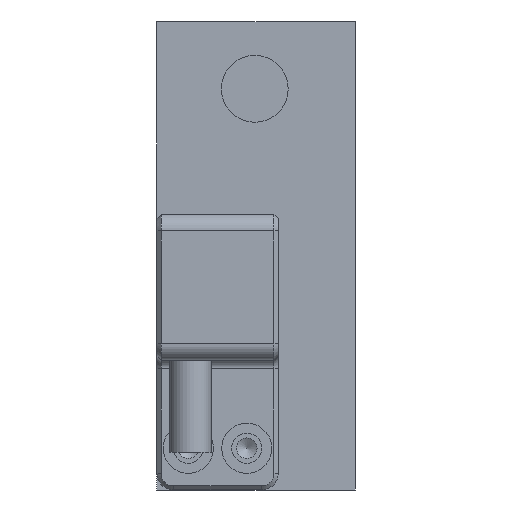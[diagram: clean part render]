
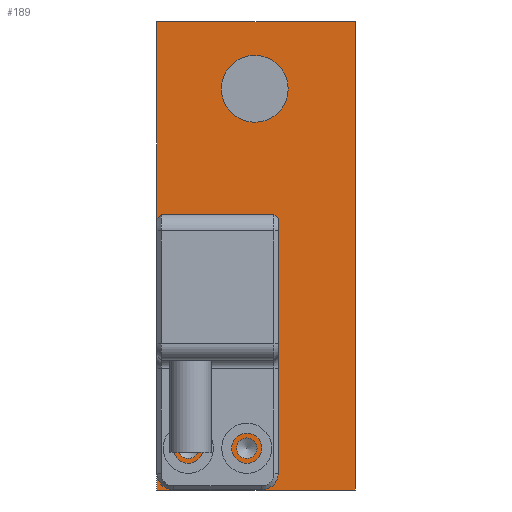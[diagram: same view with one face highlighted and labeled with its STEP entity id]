
A CAD part, left-side view. The second image highlights one B-rep face of the part: STEP entity #189.
In plain terms, the highlighted planar face has unit normal (-1, 0, 0).
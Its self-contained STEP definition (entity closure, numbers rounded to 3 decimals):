
#189 = ADVANCED_FACE( '', ( #445, #446, #447, #448 ), #449, .T. );
#445 = FACE_BOUND( '', #843, .T. );
#446 = FACE_BOUND( '', #844, .T. );
#447 = FACE_BOUND( '', #845, .T. );
#448 = FACE_OUTER_BOUND( '', #846, .T. );
#449 = PLANE( '', #847 );
#843 = EDGE_LOOP( '', ( #1271 ) );
#844 = EDGE_LOOP( '', ( #1272 ) );
#845 = EDGE_LOOP( '', ( #1273 ) );
#846 = EDGE_LOOP( '', ( #1274, #1275, #1276, #1277 ) );
#847 = AXIS2_PLACEMENT_3D( '', #1278, #1279, #1280 );
#1271 = ORIENTED_EDGE( '', *, *, #1968, .T. );
#1272 = ORIENTED_EDGE( '', *, *, #1969, .T. );
#1273 = ORIENTED_EDGE( '', *, *, #1970, .F. );
#1274 = ORIENTED_EDGE( '', *, *, #1971, .F. );
#1275 = ORIENTED_EDGE( '', *, *, #1972, .F. );
#1276 = ORIENTED_EDGE( '', *, *, #1973, .T. );
#1277 = ORIENTED_EDGE( '', *, *, #1974, .T. );
#1278 = CARTESIAN_POINT( '', ( -59., 23.7, 28. ) );
#1279 = DIRECTION( '', ( -1., 0., 0. ) );
#1280 = DIRECTION( '', ( 0., 0., 1. ) );
#1968 = EDGE_CURVE( '', #2264, #2264, #2265, .T. );
#1969 = EDGE_CURVE( '', #2266, #2266, #2267, .T. );
#1970 = EDGE_CURVE( '', #2268, #2268, #2269, .T. );
#1971 = EDGE_CURVE( '', #2270, #2271, #2272, .T. );
#1972 = EDGE_CURVE( '', #2273, #2270, #2274, .T. );
#1973 = EDGE_CURVE( '', #2273, #2275, #2276, .T. );
#1974 = EDGE_CURVE( '', #2275, #2271, #2277, .T. );
#2264 = VERTEX_POINT( '', #2649 );
#2265 = CIRCLE( '', #2650, 1.23 );
#2266 = VERTEX_POINT( '', #2651 );
#2267 = CIRCLE( '', #2652, 1.23 );
#2268 = VERTEX_POINT( '', #2653 );
#2269 = CIRCLE( '', #2654, 4. );
#2270 = VERTEX_POINT( '', #2655 );
#2271 = VERTEX_POINT( '', #2656 );
#2272 = LINE( '', #2657, #2658 );
#2273 = VERTEX_POINT( '', #2659 );
#2274 = LINE( '', #2660, #2661 );
#2275 = VERTEX_POINT( '', #2662 );
#2276 = LINE( '', #2663, #2664 );
#2277 = LINE( '', #2665, #2666 );
#2649 = CARTESIAN_POINT( '', ( -59., 19.95, -21.77 ) );
#2650 = AXIS2_PLACEMENT_3D( '', #3063, #3064, #3065 );
#2651 = CARTESIAN_POINT( '', ( -59., 12.95, -21.77 ) );
#2652 = AXIS2_PLACEMENT_3D( '', #3066, #3067, #3068 );
#2653 = CARTESIAN_POINT( '', ( -59., 12., 24. ) );
#2654 = AXIS2_PLACEMENT_3D( '', #3069, #3070, #3071 );
#2655 = CARTESIAN_POINT( '', ( -59., 0., 28. ) );
#2656 = CARTESIAN_POINT( '', ( -59., 0., -28. ) );
#2657 = CARTESIAN_POINT( '', ( -59., 0., 28. ) );
#2658 = VECTOR( '', #3072, 1000. );
#2659 = CARTESIAN_POINT( '', ( -59., 23.7, 28. ) );
#2660 = CARTESIAN_POINT( '', ( -59., 23.7, 28. ) );
#2661 = VECTOR( '', #3073, 1000. );
#2662 = CARTESIAN_POINT( '', ( -59., 23.7, -28. ) );
#2663 = CARTESIAN_POINT( '', ( -59., 23.7, 28. ) );
#2664 = VECTOR( '', #3074, 1000. );
#2665 = CARTESIAN_POINT( '', ( -59., 23.7, -28. ) );
#2666 = VECTOR( '', #3075, 1000. );
#3063 = CARTESIAN_POINT( '', ( -59., 19.95, -23. ) );
#3064 = DIRECTION( '', ( 1., 0., 0. ) );
#3065 = DIRECTION( '', ( 0., 0., 1. ) );
#3066 = CARTESIAN_POINT( '', ( -59., 12.95, -23. ) );
#3067 = DIRECTION( '', ( 1., 0., 0. ) );
#3068 = DIRECTION( '', ( 0., 0., 1. ) );
#3069 = CARTESIAN_POINT( '', ( -59., 12., 20. ) );
#3070 = DIRECTION( '', ( -1., 0., 0. ) );
#3071 = DIRECTION( '', ( 0., 0., 1. ) );
#3072 = DIRECTION( '', ( 0., 0., -1. ) );
#3073 = DIRECTION( '', ( 0., -1., 0. ) );
#3074 = DIRECTION( '', ( 0., 0., -1. ) );
#3075 = DIRECTION( '', ( 0., -1., 0. ) );
